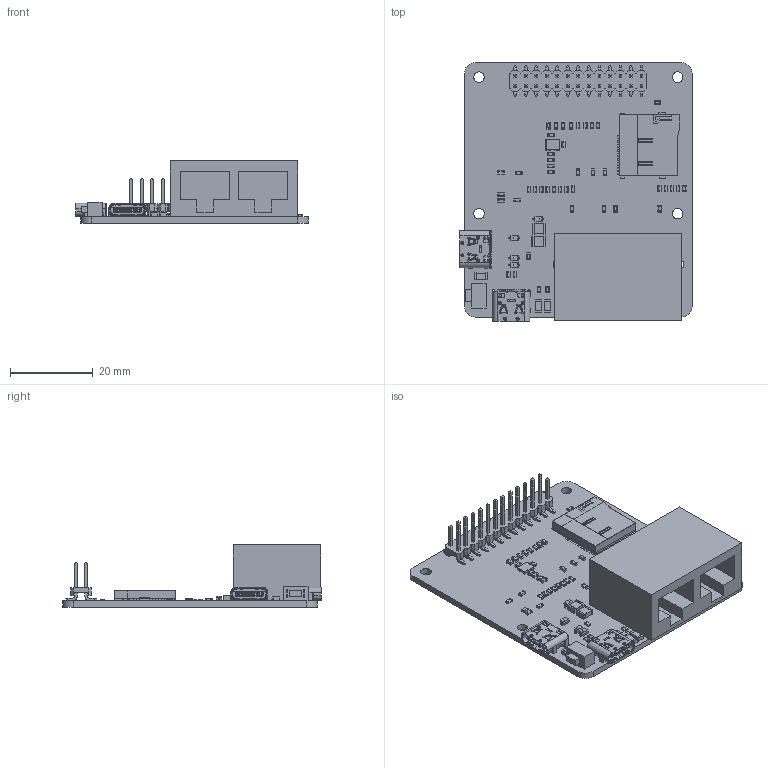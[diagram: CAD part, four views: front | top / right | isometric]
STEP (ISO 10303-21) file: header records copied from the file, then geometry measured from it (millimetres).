
FILE_DESCRIPTION(('FreeCAD Model'),'2;1');
FILE_NAME('Open CASCADE Shape Model','2025-05-27T11:45:50',(''),(''), 'Open CASCADE STEP processor 7.6','FreeCAD','Unknown');
FILE_SCHEMA(('AUTOMOTIVE_DESIGN { 1 0 10303 214 1 1 1 1 }'));
Length unit declared in the file: millimetre
Products named in the file (125): DFR0767 v3; DFR0767 PCB v1; Board; D6; SW3dPS-SOD-323; D5; C1; CAPC3225(1210); C2; C3; CAPC1608(0603); C4; CAPC3216(1206); C5; C6; C7; C8; C9; C10; C13; C14; C15; C16; C17; C18; C19; C20; C21; C22; C23; C27; D3; R1; RESC1608(0603); R2; R3; R4; R5; R6; R7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
Assembly tree (187 placements, depth 5):
  DFR0767 v3
    DFR0767 PCB v1
      Board
      D6
        SW3dPS-SOD-323
      D5
        SW3dPS-SOD-323
      C1
        CAPC3225(1210)
      C2
        CAPC3225(1210)
      C3
        CAPC1608(0603)
      C4
        CAPC3216(1206)
      C5
        CAPC1608(0603)
      C6
        CAPC1608(0603)
      C7
        CAPC3216(1206)
      C8
        CAPC1608(0603)
      C9
        CAPC1608(0603)
      C10
        CAPC1608(0603)
      C13
        CAPC1608(0603)
      C14
        CAPC1608(0603)
      C15
        CAPC1608(0603)
      C16
        CAPC1608(0603)
      C17
        CAPC1608(0603)
      C18
        CAPC1608(0603)
      C19
        CAPC1608(0603)
      C20
        CAPC1608(0603)
      C21
        CAPC1608(0603)
      C22
        CAPC1608(0603)
      C23
        CAPC1608(0603)
      C27
        CAPC1608(0603)
      D3
        SW3dPS-SOD-323
      R1
        RESC1608(0603)
      R2
        RESC1608(0603)
      R3
        RESC1608(0603)
      R4
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Bounding box: 56.12 x 62.52 x 15.06 mm (x, y, z)
Volume: 12709.7 mm3; surface area: 14893.3 mm2
Topology: 93 solids, 107 shells, 5722 faces, 14570 edges, 8766 vertices
Faces by surface type: plane 3534, cylinder 1590, sphere 408, bspline 92, torus 56, cone 42
Full cylindrical faces by diameter (mm): 0.5 x4, 0.65 x4, 0.692 x4, 0.7 x2, 0.8 x20, 1.1 x8, 1.2 x2, 2.55 x4, 3.25 x2
Entity records: 84878 total; most frequent: CARTESIAN_POINT 16032, ORIENTED_EDGE 12546, DIRECTION 12263, EDGE_CURVE 6273, LINE 5169, VECTOR 5169, VERTEX_POINT 4035, AXIS2_PLACEMENT_3D 3547
